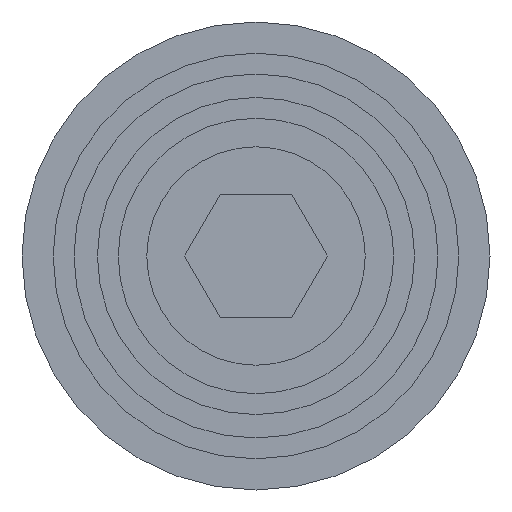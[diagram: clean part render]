
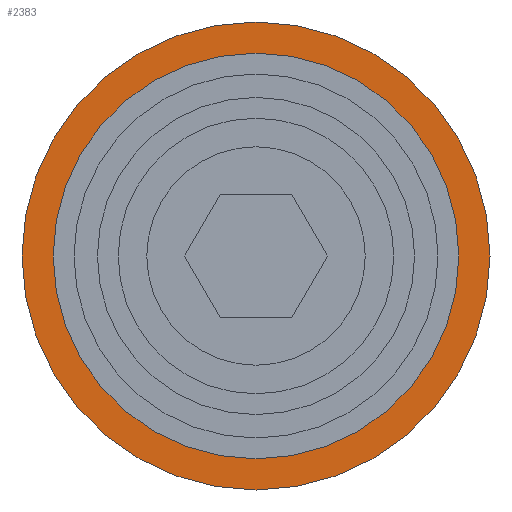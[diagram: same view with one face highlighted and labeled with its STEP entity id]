
A CAD part, front view. The second image highlights one B-rep face of the part: STEP entity #2383.
In plain terms, the highlighted planar face has unit normal (0, -1, 0).
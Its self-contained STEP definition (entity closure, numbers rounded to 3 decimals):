
#418 = ORIENTED_EDGE ( 'NONE', *, *, #8675, .F. ) ;
#514 = AXIS2_PLACEMENT_3D ( 'NONE', #11353, #1837, #8521 ) ;
#850 = DIRECTION ( 'NONE',  ( 0., 0., -1. ) ) ;
#1392 = FACE_BOUND ( 'NONE', #4547, .T. ) ;
#1837 = DIRECTION ( 'NONE',  ( 0., 1., 0. ) ) ;
#2383 = ADVANCED_FACE ( 'NONE', ( #1392, #11264 ), #7578, .F. ) ;
#3109 = VERTEX_POINT ( 'NONE', #10974 ) ;
#3264 = EDGE_CURVE ( 'NONE', #10705, #9895, #6191, .T. ) ;
#3429 = DIRECTION ( 'NONE',  ( 0., 1., 0. ) ) ;
#3634 = DIRECTION ( 'NONE',  ( 0., -1., 0. ) ) ;
#3660 = AXIS2_PLACEMENT_3D ( 'NONE', #11171, #5478, #12130 ) ;
#4224 = EDGE_CURVE ( 'NONE', #10097, #3109, #5662, .T. ) ;
#4547 = EDGE_LOOP ( 'NONE', ( #5581, #418 ) ) ;
#4596 = EDGE_LOOP ( 'NONE', ( #6020, #11796 ) ) ;
#5279 = CARTESIAN_POINT ( 'NONE',  ( 0., 0., 39. ) ) ;
#5478 = DIRECTION ( 'NONE',  ( 0., 1., 0. ) ) ;
#5581 = ORIENTED_EDGE ( 'NONE', *, *, #3264, .F. ) ;
#5662 = CIRCLE ( 'NONE', #3660, 45. ) ;
#6020 = ORIENTED_EDGE ( 'NONE', *, *, #4224, .F. ) ;
#6191 = CIRCLE ( 'NONE', #12255, 39. ) ;
#6361 = CIRCLE ( 'NONE', #7074, 45. ) ;
#6615 = DIRECTION ( 'NONE',  ( 0., -1., 0. ) ) ;
#7074 = AXIS2_PLACEMENT_3D ( 'NONE', #9117, #3429, #10072 ) ;
#7578 = PLANE ( 'NONE',  #514 ) ;
#8521 = DIRECTION ( 'NONE',  ( 0., 0., 1. ) ) ;
#8675 = EDGE_CURVE ( 'NONE', #9895, #10705, #9532, .T. ) ;
#9117 = CARTESIAN_POINT ( 'NONE',  ( 0., 0., 0. ) ) ;
#9317 = CARTESIAN_POINT ( 'NONE',  ( 0., 0., 45. ) ) ;
#9326 = CARTESIAN_POINT ( 'NONE',  ( 0., 0., 0. ) ) ;
#9532 = CIRCLE ( 'NONE', #10644, 39. ) ;
#9895 = VERTEX_POINT ( 'NONE', #5279 ) ;
#10072 = DIRECTION ( 'NONE',  ( 0., 0., 1. ) ) ;
#10097 = VERTEX_POINT ( 'NONE', #9317 ) ;
#10278 = DIRECTION ( 'NONE',  ( 0., 0., -1. ) ) ;
#10644 = AXIS2_PLACEMENT_3D ( 'NONE', #12332, #6615, #850 ) ;
#10705 = VERTEX_POINT ( 'NONE', #11954 ) ;
#10974 = CARTESIAN_POINT ( 'NONE',  ( 0., 0., -45. ) ) ;
#11171 = CARTESIAN_POINT ( 'NONE',  ( 0., 0., 0. ) ) ;
#11264 = FACE_OUTER_BOUND ( 'NONE', #4596, .T. ) ;
#11353 = CARTESIAN_POINT ( 'NONE',  ( 45., 0., 0. ) ) ;
#11796 = ORIENTED_EDGE ( 'NONE', *, *, #12412, .F. ) ;
#11954 = CARTESIAN_POINT ( 'NONE',  ( 0., 0., -39. ) ) ;
#12130 = DIRECTION ( 'NONE',  ( 0., 0., 1. ) ) ;
#12255 = AXIS2_PLACEMENT_3D ( 'NONE', #9326, #3634, #10278 ) ;
#12332 = CARTESIAN_POINT ( 'NONE',  ( 0., 0., 0. ) ) ;
#12412 = EDGE_CURVE ( 'NONE', #3109, #10097, #6361, .T. ) ;
